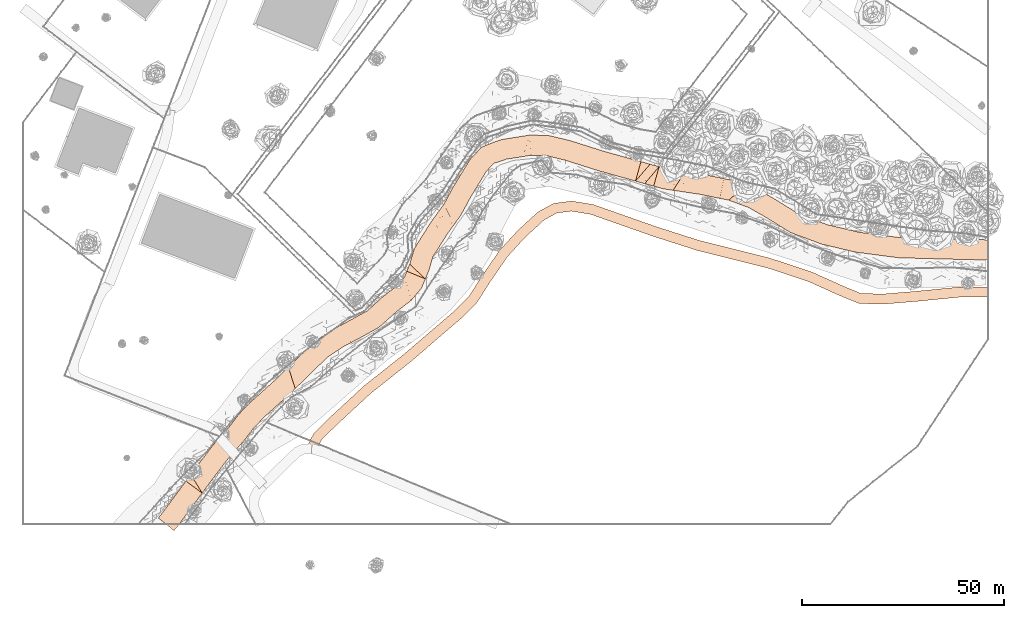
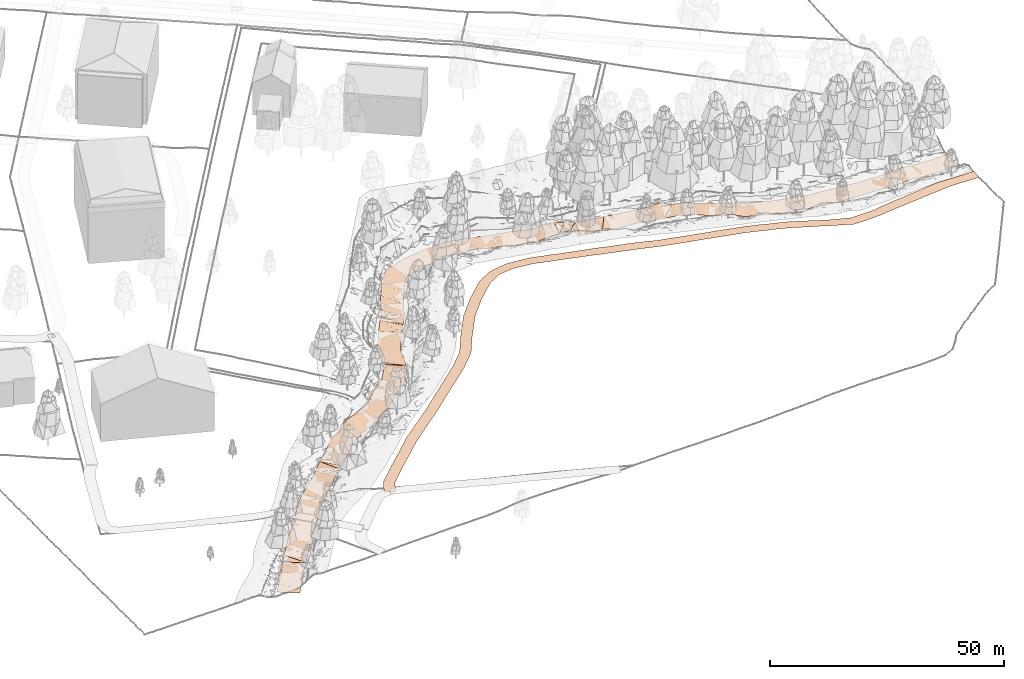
# Not in any storey, part 47 of 88: 2 geographic elements.
"""IFC4 model written with IfcOpenShell, lengths in metres."""

from ifc_helpers import new_model, si_unit, origin_with_axes, place, context, subcontext, project, spatial, triangles, element, save


model = new_model("IFC4")

# Units and contexts
model_context = context("Model", 3, precision=1e-05, world=origin_with_axes())
body_context = subcontext(model_context, "Body", "Model", "MODEL_VIEW")
ifc_project = project(units=[si_unit("LENGTHUNIT", "METRE"), si_unit("AREAUNIT", "SQUARE_METRE"), si_unit("VOLUMEUNIT", "CUBIC_METRE"), si_unit("PLANEANGLEUNIT", "RADIAN")], contexts=[model_context])

# Sites
site_1_placement = place(None, origin_with_axes())
site_1 = spatial("IfcSite", under=ifc_project, at=site_1_placement, Name="CH907857693633", CompositionType="ELEMENT")
site_2_placement = place(None, origin_with_axes())
site_2 = spatial("IfcSite", under=site_1, at=site_2_placement, Name="Roads", CompositionType="ELEMENT")

# Geographic element
geographic_element_1_placement = place(None, origin_with_axes())
element("IfcGeographicElement", 1, at=geographic_element_1_placement, inside=site_2, Name="Road_weg", ObjectType="ROAD", PredefinedType="USERDEFINED", context=body_context, shape_type="Tessellation", body=[
    triangles([(238.514226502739, 56.2198538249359, 3.6368530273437), (236.090226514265, 56.1922640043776, 3.66621093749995), (233.666226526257, 56.1646741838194, 3.7962768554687), (231.2932040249, 56.1387051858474, 3.80744628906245), (229.191040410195, 55.9311752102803, 3.8319213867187), (227.032040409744, 55.7193752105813, 3.8912475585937), (224.873040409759, 55.5075752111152, 3.8881958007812), (222.714040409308, 55.2957752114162, 3.8737915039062), (220.544362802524, 55.0829739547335, 3.86494140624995), (217.960058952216, 54.8705374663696, 3.8354614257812), (215.384725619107, 54.6588707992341, 3.7639282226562), (212.743138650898, 54.4435259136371, 3.67512207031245), (209.773741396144, 54.4962106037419, 3.5575073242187), (206.643149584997, 54.5728208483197, 3.49982910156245), (203.97473814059, 55.6492021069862, 3.5666625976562), (201.524693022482, 56.6614616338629, 3.61225585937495), (199.625825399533, 57.5171752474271, 3.63801269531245), (197.747325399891, 58.3639252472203, 3.6272094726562), (195.868825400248, 59.2106752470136, 3.64069824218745), (194.052241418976, 60.0314931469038, 3.64765624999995), (192.059263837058, 60.6871063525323, 3.74042968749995), (190.006063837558, 61.3643063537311, 3.73286132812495), (187.952863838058, 62.041506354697, 3.75422363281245), (185.899663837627, 62.7187063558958, 3.76630859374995), (183.891135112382, 63.3820934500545, 3.7486694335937), (181.76515618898, 63.9128376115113, 3.73188476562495), (179.595531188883, 64.4553376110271, 3.77045898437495), (177.425906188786, 64.9978376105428, 3.7706420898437), (175.256281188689, 65.5403376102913, 3.78510742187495), (173.086656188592, 66.0828376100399, 3.78034667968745), (170.917031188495, 66.6253376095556, 3.7794311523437), (168.747406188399, 67.1678376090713, 3.80366210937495), (166.538878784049, 67.7207334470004, 3.8298461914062), (164.383487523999, 68.4096549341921, 3.8214233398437), (162.266887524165, 69.0868549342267, 3.8370483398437), (160.150287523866, 69.7640549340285, 3.79523925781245), (158.033687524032, 70.4412549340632, 3.76142578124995), (155.900883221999, 71.1237615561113, 3.7170532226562), (153.925613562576, 71.8176884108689, 3.62714843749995), (151.967613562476, 72.5056884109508, 3.60688476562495), (150.009613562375, 73.1936884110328, 3.5046508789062), (148.051613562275, 73.8816884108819, 3.42304687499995), (146.093613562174, 74.569688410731, 3.34040527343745), (144.135613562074, 75.257688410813, 3.2445190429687), (142.177613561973, 75.9456884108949, 3.14667968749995), (140.334259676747, 76.5994731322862, 3.09980468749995), (137.888658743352, 77.0029847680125, 3.0384643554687), (135.510487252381, 77.4097609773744, 2.9565551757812), (133.706544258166, 77.1551823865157, 2.97456054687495), (131.991421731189, 76.9670977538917, 2.9459350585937), (128.728311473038, 75.181582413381, 2.97016601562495), (127.294559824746, 73.8547025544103, 2.99836425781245), (125.707226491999, 72.4083692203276, 2.9461791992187), (124.161883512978, 71.0021199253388, 2.9441040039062), (122.683227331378, 69.3842043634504, 2.95673828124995), (121.166227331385, 67.7262043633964, 2.9458129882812), (119.709259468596, 66.1389145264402, 2.9166381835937), (118.274901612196, 64.0511386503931, 2.9035766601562), (116.793234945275, 61.8991386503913, 2.91437988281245), (115.326369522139, 59.7691319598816, 2.9100463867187), (113.804902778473, 57.3553704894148, 2.8739135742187), (112.193834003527, 54.8131068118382, 2.88032226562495), (110.245002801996, 52.8517392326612, 2.88593749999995), (108.362578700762, 50.9698202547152, 2.8901489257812), (106.735604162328, 49.5719600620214, 2.8797729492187), (105.148104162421, 48.2094600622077, 2.8953979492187), (103.560604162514, 46.8469600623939, 2.9303100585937), (101.973104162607, 45.484460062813, 2.97163085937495), (100.3856041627, 44.1219600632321, 3.00715332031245), (98.7981041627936, 42.7594600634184, 3.00373535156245), (97.2106041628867, 41.3969600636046, 2.96564941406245), (95.6042180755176, 40.0185718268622, 2.97797851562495), (93.9794278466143, 38.7327211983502, 2.9432495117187), (92.3742611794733, 37.4627211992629, 2.93916015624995), (90.7690945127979, 36.1927212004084, 2.9176147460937), (89.1639278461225, 34.9227212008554, 2.8675659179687), (87.5587611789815, 33.6527212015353, 2.8805053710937), (85.9924942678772, 32.4147950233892, 2.8451049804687), (84.3541334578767, 30.8997454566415, 2.84589843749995), (82.6819334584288, 29.354545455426, 2.8148315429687), (81.0097334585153, 27.8093454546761, 2.82563476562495), (79.3375334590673, 26.2641454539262, 2.85749511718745), (77.678134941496, 24.7309423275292, 2.83124999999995), (75.7306746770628, 22.8360774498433, 2.7946899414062), (73.918564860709, 21.1010131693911, 2.8305786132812), (72.3948103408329, 18.1469074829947, 2.78608398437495), (238.485773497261, 58.719691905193, 3.6853149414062), (236.061773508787, 58.6921020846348, 3.7027709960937), (233.637773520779, 58.6645122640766, 3.7428100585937), (231.162796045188, 58.6353016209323, 3.86579589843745), (228.946959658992, 58.419231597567, 4.0603149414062), (226.787959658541, 58.207431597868, 4.06660156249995), (224.628959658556, 57.9956315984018, 3.9878051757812), (222.469959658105, 57.7838315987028, 3.97041015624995), (220.321637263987, 57.5730328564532, 3.90095214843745), (217.755274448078, 57.3621360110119, 3.89204101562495), (215.17994111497, 57.1504693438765, 3.7762573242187), (212.670861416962, 56.9424808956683, 3.57722167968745), (209.819258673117, 56.9957962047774, 3.53132324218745), (207.128850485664, 57.025185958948, 3.51166992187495), (204.929261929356, 57.9598046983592, 3.45734863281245), (202.511307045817, 58.9585451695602, 3.40974121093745), (200.653174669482, 59.7963315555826, 3.44892578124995), (198.774674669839, 60.6430815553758, 3.4876831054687), (196.896174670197, 61.4898315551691, 3.52790527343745), (194.955758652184, 62.3625136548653, 3.54316406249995), (192.842336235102, 63.0613004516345, 3.5833862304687), (190.789136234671, 63.7385004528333, 3.59907226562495), (188.735936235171, 64.4157004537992, 3.66633300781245), (186.682736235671, 65.092900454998, 3.6630981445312), (184.584864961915, 65.7839133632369, 3.60456542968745), (182.371593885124, 66.3381692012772, 3.62287597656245), (180.201968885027, 66.8806692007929, 3.67109374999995), (178.03234388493, 67.4231692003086, 3.62385253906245), (175.862718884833, 67.9656692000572, 3.65693359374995), (173.693093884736, 68.5081691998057, 3.64838867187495), (171.523468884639, 69.0506691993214, 3.67023925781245), (169.353843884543, 69.5931691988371, 3.70624999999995), (167.223121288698, 70.1252733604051, 3.69111328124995), (165.145312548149, 70.7907518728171, 3.76057128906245), (163.028712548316, 71.4679518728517, 3.7972534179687), (160.912112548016, 72.1451518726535, 3.79487304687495), (158.795512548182, 72.8223518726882, 3.72163085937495), (156.695116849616, 73.4942452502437, 3.6560180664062), (154.754386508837, 74.1763183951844, 3.62629394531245), (152.796386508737, 74.8643183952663, 3.53535156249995), (150.838386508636, 75.5523183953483, 3.4307983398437), (148.880386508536, 76.2403183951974, 3.31330566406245), (146.922386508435, 76.9283183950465, 3.20820312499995), (144.964386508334, 77.6163183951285, 3.1651733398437), (143.006386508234, 78.3043183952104, 3.04963378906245), (140.933740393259, 79.0265336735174, 2.9517944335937), (138.299341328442, 79.4690220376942, 2.9072387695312), (135.597512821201, 79.9082458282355, 2.7815063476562), (133.380455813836, 79.6338244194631, 2.75776367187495), (131.074578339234, 79.2929090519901, 2.70356445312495), (127.351688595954, 77.2684243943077, 2.80073242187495), (125.610773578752, 75.7026375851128, 2.8294799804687), (124.023440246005, 74.2563042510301, 2.81623535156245), (122.394116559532, 72.7698868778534, 2.7585571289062), (120.838772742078, 71.0718024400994, 2.77900390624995), (119.321772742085, 69.4138024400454, 2.81403808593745), (117.74474060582, 67.6850922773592, 2.7683227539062), (116.215765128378, 65.4688681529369, 2.82148437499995), (114.734098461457, 63.3168681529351, 2.7804077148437), (113.23763055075, 61.1428748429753, 2.7802856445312), (111.690097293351, 58.6886363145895, 2.77680664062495), (110.2321660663, 56.3628999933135, 2.81135253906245), (108.476997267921, 54.619267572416, 2.7732055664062), (106.655421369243, 52.7961865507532, 2.77583007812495), (105.107395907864, 51.4690467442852, 2.7592895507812), (103.519895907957, 50.1065467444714, 2.7607543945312), (101.93239590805, 48.7440467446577, 2.8180053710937), (100.344895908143, 47.3815467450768, 2.85151367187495), (98.7573959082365, 46.0190467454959, 2.84321289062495), (97.1698959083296, 44.6565467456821, 2.8888061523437), (95.5823959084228, 43.2940467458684, 2.90192871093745), (94.0137819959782, 41.9474349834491, 2.86921386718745), (92.4282388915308, 40.6932856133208, 2.8304565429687), (90.8230722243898, 39.4232856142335, 2.8542602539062), (89.2179055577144, 38.1532856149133, 2.86555175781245), (87.612738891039, 36.883285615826, 2.8712280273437), (86.007572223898, 35.6132856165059, 2.83771972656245), (84.3635058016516, 34.3112117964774, 2.88825683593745), (82.6574666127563, 32.7358613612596, 2.7606323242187), (80.9852666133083, 31.1906613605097, 2.7353637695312), (79.3130666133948, 29.6454613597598, 2.73200683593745), (77.6408666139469, 28.1002613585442, 2.74104003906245), (75.9558651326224, 26.5430644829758, 2.75629882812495), (73.9873253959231, 24.6279293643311, 2.79255371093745), (71.8834352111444, 22.5529936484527, 2.8299682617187), (70.1771897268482, 19.3010993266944, 2.78315429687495)], [[1, 87, 2], [87, 88, 2], [2, 88, 3], [88, 89, 3], [3, 89, 4], [89, 90, 4], [4, 90, 5], [90, 91, 5], [5, 91, 6], [91, 92, 6], [6, 92, 7], [92, 93, 7], [7, 93, 8], [93, 94, 8], [8, 94, 9], [94, 95, 9], [9, 95, 10], [95, 96, 10], [10, 96, 11], [96, 97, 11], [11, 97, 12], [97, 98, 12], [12, 98, 13], [98, 99, 13], [13, 99, 14], [99, 100, 14], [14, 100, 15], [100, 101, 15], [15, 101, 16], [101, 102, 16], [16, 102, 17], [102, 103, 17], [17, 103, 18], [103, 104, 18], [18, 104, 19], [104, 105, 19], [19, 105, 20], [105, 106, 20], [20, 106, 21], [106, 107, 21], [21, 107, 22], [107, 108, 22], [22, 108, 23], [108, 109, 23], [23, 109, 24], [109, 110, 24], [24, 110, 25], [110, 111, 25], [25, 111, 26], [111, 112, 26], [26, 112, 27], [112, 113, 27], [27, 113, 28], [113, 114, 28], [28, 114, 29], [114, 115, 29], [29, 115, 30], [115, 116, 30], [30, 116, 31], [116, 117, 31], [31, 117, 32], [117, 118, 32], [32, 118, 33], [118, 119, 33], [33, 119, 34], [119, 120, 34], [34, 120, 35], [120, 121, 35], [35, 121, 36], [121, 122, 36], [36, 122, 37], [122, 123, 37], [37, 123, 38], [123, 124, 38], [38, 124, 39], [124, 125, 39], [39, 125, 40], [125, 126, 40], [40, 126, 41], [126, 127, 41], [41, 127, 42], [127, 128, 42], [42, 128, 43], [128, 129, 43], [43, 129, 44], [129, 130, 44], [44, 130, 45], [130, 131, 45], [45, 131, 46], [131, 132, 46], [46, 132, 47], [132, 133, 47], [47, 133, 48], [133, 134, 48], [48, 134, 49], [134, 135, 49], [49, 135, 50], [135, 136, 50], [50, 136, 51], [136, 137, 51], [51, 137, 52], [137, 138, 52], [52, 138, 53], [138, 139, 53], [53, 139, 54], [139, 140, 54], [54, 140, 55], [140, 141, 55], [55, 141, 56], [141, 142, 56], [56, 142, 57], [142, 143, 57], [57, 143, 58], [143, 144, 58], [58, 144, 59], [144, 145, 59], [59, 145, 60], [145, 146, 60], [60, 146, 61], [146, 147, 61], [61, 147, 62], [147, 148, 62], [62, 148, 63], [148, 149, 63], [63, 149, 64], [149, 150, 64], [64, 150, 65], [150, 151, 65], [65, 151, 66], [151, 152, 66], [66, 152, 67], [152, 153, 67], [67, 153, 68], [153, 154, 68], [68, 154, 69], [154, 155, 69], [69, 155, 70], [155, 156, 70], [70, 156, 71], [156, 157, 71], [71, 157, 72], [157, 158, 72], [72, 158, 73], [158, 159, 73], [73, 159, 74], [159, 160, 74], [74, 160, 75], [160, 161, 75], [75, 161, 76], [161, 162, 76], [76, 162, 77], [162, 163, 77], [77, 163, 78], [163, 164, 78], [78, 164, 79], [164, 165, 79], [79, 165, 80], [165, 166, 80], [80, 166, 81], [166, 167, 81], [81, 167, 82], [167, 168, 82], [82, 168, 83], [168, 169, 83], [83, 169, 84], [169, 170, 84], [84, 170, 85], [170, 171, 85], [85, 171, 86], [171, 172, 86]]),
])

# Site
site_3_placement = place(None, origin_with_axes())
site_3 = spatial("IfcSite", under=site_1, at=site_3_placement, Name="Water", CompositionType="ELEMENT")

# Geographic element
geographic_element_2_placement = place(None, origin_with_axes())
element("IfcGeographicElement", 2, at=geographic_element_2_placement, inside=site_3, Name="Le Talent", ObjectType="WATER", PredefinedType="USERDEFINED", context=body_context, shape_type="Tessellation", body=[
    triangles([(238.442537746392, 65.3146804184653, 1.349365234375), (236.021537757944, 65.3703415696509, 1.00128173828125), (233.600537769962, 65.4260027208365, 0.96337890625), (231.175651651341, 65.481756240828, 1.009033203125), (229.07815707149, 65.5370134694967, 1.1790771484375), (226.985157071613, 65.5921563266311, 1.37969970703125), (224.89215707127, 65.6472991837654, 1.1192626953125), (222.799157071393, 65.7024420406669, 1.00213623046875), (220.70615707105, 65.7575848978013, 1.140869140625), (218.613157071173, 65.8127277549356, 1.268798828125), (216.389846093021, 65.8747105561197, 1.19427490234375), (214.179012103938, 66.1616955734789, 1.091064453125), (212.097612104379, 66.4350955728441, 0.8675537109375), (210.01621210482, 66.7084955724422, 0.87347412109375), (207.934812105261, 66.9818955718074, 0.789794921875), (205.72821795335, 67.2749801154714, 0.768310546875), (203.57104993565, 67.7818832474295, 0.76861572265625), (201.538549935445, 68.2626332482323, 0.77032470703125), (199.506049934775, 68.7433832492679, 0.8363037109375), (197.3073944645, 69.2695316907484, 0.651611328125), (194.729067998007, 70.224985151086, 0.781005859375), (192.281067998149, 71.1359851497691, 0.70440673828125), (189.613070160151, 72.1410727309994, 0.80572509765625), (187.320017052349, 73.5466863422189, 1.2843017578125), (185.252017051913, 74.8283530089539, 0.89483642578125), (183.226838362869, 76.0840705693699, 0.8770751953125), (181.229805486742, 77.2110604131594, 1.142578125), (179.381469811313, 78.2655524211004, 1.0574951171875), (176.89756607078, 79.179371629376, 1.12841796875), (174.415409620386, 80.1061756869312, 0.80560302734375), (172.190172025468, 80.5556314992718, 0.71771240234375), (169.768172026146, 81.0539648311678, 1.05450439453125), (167.40999185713, 81.5400294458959, 0.7730712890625), (165.20083048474, 81.870710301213, 0.63323974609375), (162.922830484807, 82.2127103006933, 0.71875), (160.644830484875, 82.5547103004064, 1.479248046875), (158.215495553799, 82.9242152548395, 0.790283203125), (155.847619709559, 83.5799799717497, 0.69281005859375), (153.629602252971, 84.1988453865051, 2.406494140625), (151.360073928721, 84.8311139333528, 2.11358642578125), (149.090073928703, 85.4635139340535, 1.44970703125), (146.82007392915, 86.095913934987, 0.93359375), (144.550073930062, 86.7283139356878, 0.69024658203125), (142.241137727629, 87.3719019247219, 0.6893310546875), (140.098692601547, 88.0465669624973, 0.79803466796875), (137.997692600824, 88.7085669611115, 0.79180908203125), (135.896692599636, 89.3705669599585, 0.6583251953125), (133.88325793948, 90.0067240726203, 0.96917724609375), (131.485242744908, 90.584956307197, 0.4906005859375), (129.252632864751, 91.1369740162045, 0.54620361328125), (127.426326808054, 91.1565170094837, 0.89691162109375), (125.529260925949, 91.2050144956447, 1.0479736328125), (123.570550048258, 90.8879440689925, 0.54351806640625), (121.397216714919, 90.5466107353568, 0.533447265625), (119.445906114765, 90.2505416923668, 0.462890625), (117.688551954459, 89.6146212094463, 0.50543212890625), (116.362357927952, 89.2617842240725, 0.49346923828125), (114.440491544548, 87.1641647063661, 0.4091796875), (113.231673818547, 85.1421903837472, 0.4619140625), (111.856007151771, 82.8788570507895, 0.2763671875), (110.512134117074, 80.6693369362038, 0.45318603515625), (109.446176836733, 78.6815420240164, 0.45904541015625), (108.25376638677, 76.474352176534, 0.54486083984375), (106.518952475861, 74.0654369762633, 0.5032958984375), (104.910031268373, 71.8402803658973, 0.3907470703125), (103.67251177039, 69.8756050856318, 0.49029541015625), (102.388511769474, 67.8399384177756, 0.6553955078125), (101.299813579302, 66.1815718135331, 0.59906005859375), (100.299064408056, 62.7155049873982, 0.57440185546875), (99.4515050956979, 60.6515344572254, 0.4248046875), (98.4410398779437, 58.3291653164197, 0.43609619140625), (95.9595710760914, 55.3750432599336, 0.31195068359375), (94.0293491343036, 53.8895264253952, 0.18133544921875), (92.4574139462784, 52.70791481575, 0.24383544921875), (90.364508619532, 50.8239555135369, 0.2156982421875), (87.9924992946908, 48.7109785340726, 0.50799560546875), (85.4232153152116, 47.2708995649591, 0.29730224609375), (83.0856324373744, 45.9791912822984, 0.12152099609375), (81.0007808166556, 44.8782443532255, 0.10931396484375), (79.0497646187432, 43.8518038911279, 0.093505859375), (77.0892986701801, 42.5494220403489, 0.19415283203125), (75.2063073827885, 41.3136880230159, 0.1802978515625), (73.8799074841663, 39.9901620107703, 0.15069580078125), (72.360574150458, 38.4954953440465, 0.14959716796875), (70.8329305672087, 36.9926912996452, 0.13201904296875), (69.0444189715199, 35.2633896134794, 0.2926025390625), (67.2630856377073, 33.5410562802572, 1.24578857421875), (65.4501246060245, 31.7886723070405, 1.01568603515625), (63.5710958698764, 30.0939516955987, 0.5635986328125), (61.7240958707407, 28.4286183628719, 0.68194580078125), (59.927246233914, 26.8097616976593, 0.3983154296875), (58.491227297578, 25.3498000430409, 0.33221435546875), (57.1402294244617, 23.9907593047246, 0.3009033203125), (54.8518382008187, 20.9543507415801, 0.33416748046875), (53.4072518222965, 19.3188351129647, 0.31280517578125), (52.0452518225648, 17.781501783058, 0.1832275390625), (50.7462945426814, 16.3181774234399, 0.1832275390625), (49.4116621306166, 14.5645665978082, 0.17279052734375), (48.0229954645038, 12.7425665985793, 0.23834228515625), (46.6447349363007, 10.934318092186, 0.12225341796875), (45.4662362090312, 9.33956464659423, 0.10888671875), (44.275950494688, 7.72899321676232, 0.427978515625), (43.0856647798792, 6.11842178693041, 0.77545166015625), (41.895379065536, 4.50785035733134, 0.76251220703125), (40.7050933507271, 2.89727892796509, 0.38714599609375), (39.5148076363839, 1.28670749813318, 0.5), (38.2979704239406, -0.359134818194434, 0.4744873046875), (37.3258659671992, -1.56774285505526, 0.5010986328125), (238.557462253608, 70.3133594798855, 1.0311279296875), (236.13646226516, 70.3690206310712, 0.98883056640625), (233.715462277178, 70.4246817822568, 0.94488525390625), (231.298348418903, 70.4802505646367, 1.0084228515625), (229.209842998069, 70.5352790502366, 1.09661865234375), (227.116842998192, 70.5904219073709, 1.23553466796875), (225.023842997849, 70.6455647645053, 0.9891357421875), (222.930842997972, 70.7007076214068, 0.9530029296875), (220.837842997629, 70.7558504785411, 0.8975830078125), (218.744842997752, 70.8109933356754, 0.96307373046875), (216.782153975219, 70.8592962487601, 0.92034912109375), (214.830187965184, 71.1191112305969, 0.94268798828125), (212.748787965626, 71.3925112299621, 0.85369873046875), (210.667387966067, 71.6659112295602, 0.8887939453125), (208.585987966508, 71.9393112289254, 0.85345458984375), (206.6297821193, 72.1930266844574, 0.77789306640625), (204.721950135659, 72.6476235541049, 0.681640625), (202.689450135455, 73.1283735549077, 0.7156982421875), (200.656950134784, 73.6091235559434, 0.73095703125), (198.790605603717, 74.0444751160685, 0.73846435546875), (196.472932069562, 74.9110216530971, 0.6845703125), (194.024932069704, 75.8220216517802, 0.73480224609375), (191.796929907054, 76.6389340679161, 0.73980712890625), (189.953983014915, 77.7966537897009, 0.83038330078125), (187.885983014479, 79.0783204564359, 0.76837158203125), (185.775161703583, 80.3859362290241, 0.76824951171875), (183.688194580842, 81.5649463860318, 0.7119140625), (181.452530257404, 82.816454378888, 0.89739990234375), (178.63543399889, 83.8676351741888, 0.79443359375), (175.816590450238, 84.9058311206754, 1.39947509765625), (173.197828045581, 85.4530419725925, 0.864501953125), (170.775828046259, 85.9513753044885, 0.81243896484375), (168.290008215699, 86.461977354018, 0.728271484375), (165.943169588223, 86.8152964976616, 0.730712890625), (163.66516958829, 87.1572964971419, 0.8580322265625), (161.387169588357, 87.4992964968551, 0.8194580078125), (159.260504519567, 87.8137915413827, 0.8323974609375), (157.191380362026, 88.3960268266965, 0.79193115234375), (154.972397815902, 89.015161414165, 1.1319580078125), (152.701926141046, 89.6476928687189, 1.7308349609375), (150.431926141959, 90.2800928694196, 1.3896484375), (148.161926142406, 90.9124928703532, 0.65411376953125), (145.891926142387, 91.5448928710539, 0.72418212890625), (143.660862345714, 92.1661048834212, 0.8929443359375), (141.601307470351, 92.8154398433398, 0.74505615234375), (139.500307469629, 93.477439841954, 0.6298828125), (137.399307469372, 94.1394398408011, 0.59246826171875), (135.210742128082, 94.8272827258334, 0.603515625), (132.659757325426, 95.4450504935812, 0.57159423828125), (129.943367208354, 96.0890327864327, 0.65020751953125), (127.527673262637, 96.1554897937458, 0.5263671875), (125.182739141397, 96.1929923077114, 0.4986572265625), (122.79478335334, 95.8273960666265, 0.50341796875), (120.62145002, 95.4860627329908, 0.55999755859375), (118.226093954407, 95.0994651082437, 0.62103271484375), (116.015448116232, 94.3263855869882, 0.51251220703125), (113.373642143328, 93.270222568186, 0.98748779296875), (110.50150852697, 90.2438420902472, 0.8392333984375), (108.958992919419, 87.7391497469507, 1.1251220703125), (107.583326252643, 85.475816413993, 0.8974609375), (106.175865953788, 83.1586698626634, 0.5196533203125), (105.04082323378, 81.0464647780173, 0.71551513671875), (104.032233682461, 79.1536546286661, 0.4755859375), (102.466047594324, 76.993569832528, 1.25445556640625), (100.773968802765, 74.6497264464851, 0.43096923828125), (99.4434882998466, 72.5430683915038, 0.4769287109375), (98.1594882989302, 70.5074017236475, 0.3841552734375), (96.6801864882, 68.0944349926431, 0.54522705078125), (95.5569356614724, 64.3005018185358, 0.4373779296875), (94.8314949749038, 62.5634723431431, 1.2020263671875), (94.2689601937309, 61.0848414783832, 1.02008056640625), (92.4284289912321, 58.9149635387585, 0.23260498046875), (91.0186509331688, 57.8814803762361, 0.15594482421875), (89.2505861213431, 56.5440919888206, 0.13677978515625), (87.0214914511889, 54.5420512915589, 0.0474853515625), (85.0715007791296, 52.7690282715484, 0.1588134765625), (83.0047847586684, 51.6471072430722, 0.195068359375), (80.7063676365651, 50.3768155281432, 0.34649658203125), (78.666219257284, 49.299762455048, 0.82470703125), (76.4922354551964, 48.1482029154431, 0.41619873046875), (74.3277014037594, 46.7175847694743, 0.1788330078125), (72.0856926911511, 45.2203187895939, 0.58831787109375), (70.3734259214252, 43.5545114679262, 0.23944091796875), (68.8540925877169, 42.0598448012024, 0.24951171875), (67.3430695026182, 40.5733155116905, 0.05108642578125), (65.5689144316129, 38.8579505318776, 0.48046875), (63.7875810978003, 37.1356171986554, 0.276611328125), (62.0378754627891, 35.4433345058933, 0.26416015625), (60.2229042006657, 33.8073884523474, 0.32958984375), (58.3759042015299, 32.1420551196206, 0.348388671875), (56.4787538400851, 30.4302451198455, 0.206298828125), (54.9287727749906, 28.858206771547, 0.55999755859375), (53.2937706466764, 27.1852475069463, 0.39971923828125), (50.9441618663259, 24.0736560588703, 0.31121826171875), (49.6647482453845, 22.6345050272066, 0.3006591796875), (48.3027482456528, 21.0971716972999, 0.1832275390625), (46.8777055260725, 19.485829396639, 0.1832275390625), (45.435004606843, 17.5954402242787, 0.1795654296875), (44.0463379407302, 15.7734402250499, 0.12603759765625), (42.6472651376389, 13.9376887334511, 0.3472900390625), (41.4451924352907, 12.3112993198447, 0.55328369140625), (40.2549067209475, 10.7007278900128, 0.18560791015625), (39.0646210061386, 9.09015646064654, 0.34161376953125), (37.8743352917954, 7.47958503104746, 0.22222900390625), (36.6840495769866, 5.86901360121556, 0.13909912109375), (35.4937638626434, 4.25844217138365, 0.12646484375), (34.330029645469, 2.68314162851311, 0.27532958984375), (33.4311606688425, 1.56774285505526, 0.26055908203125)], [[1, 109, 2], [109, 110, 2], [2, 110, 3], [110, 111, 3], [3, 111, 4], [111, 112, 4], [4, 112, 5], [112, 113, 5], [5, 113, 6], [113, 114, 6], [6, 114, 7], [114, 115, 7], [7, 115, 8], [115, 116, 8], [8, 116, 9], [116, 117, 9], [9, 117, 10], [117, 118, 10], [10, 118, 11], [118, 119, 11], [11, 119, 12], [119, 120, 12], [12, 120, 13], [120, 121, 13], [13, 121, 14], [121, 122, 14], [14, 122, 15], [122, 123, 15], [15, 123, 16], [123, 124, 16], [16, 124, 17], [124, 125, 17], [17, 125, 18], [125, 126, 18], [18, 126, 19], [126, 127, 19], [19, 127, 20], [127, 128, 20], [20, 128, 21], [128, 129, 21], [21, 129, 22], [129, 130, 22], [22, 130, 23], [130, 131, 23], [23, 131, 24], [131, 132, 24], [24, 132, 25], [132, 133, 25], [25, 133, 26], [133, 134, 26], [26, 134, 27], [134, 135, 27], [27, 135, 28], [135, 136, 28], [28, 136, 29], [136, 137, 29], [29, 137, 30], [137, 138, 30], [30, 138, 31], [138, 139, 31], [31, 139, 32], [139, 140, 32], [32, 140, 33], [140, 141, 33], [33, 141, 34], [141, 142, 34], [34, 142, 35], [142, 143, 35], [35, 143, 36], [143, 144, 36], [36, 144, 37], [144, 145, 37], [37, 145, 38], [145, 146, 38], [38, 146, 39], [146, 147, 39], [39, 147, 40], [147, 148, 40], [40, 148, 41], [148, 149, 41], [41, 149, 42], [149, 150, 42], [42, 150, 43], [150, 151, 43], [43, 151, 44], [151, 152, 44], [44, 152, 45], [152, 153, 45], [45, 153, 46], [153, 154, 46], [46, 154, 47], [154, 155, 47], [47, 155, 48], [155, 156, 48], [48, 156, 49], [156, 157, 49], [49, 157, 50], [157, 158, 50], [50, 158, 51], [158, 159, 51], [51, 159, 52], [159, 160, 52], [52, 160, 53], [160, 161, 53], [53, 161, 54], [161, 162, 54], [54, 162, 55], [162, 163, 55], [55, 163, 56], [163, 164, 56], [56, 164, 57], [164, 165, 57], [57, 165, 58], [165, 166, 58], [58, 166, 59], [166, 167, 59], [59, 167, 60], [167, 168, 60], [60, 168, 61], [168, 169, 61], [61, 169, 62], [169, 170, 62], [62, 170, 63], [170, 171, 63], [63, 171, 64], [171, 172, 64], [64, 172, 65], [172, 173, 65], [65, 173, 66], [173, 174, 66], [66, 174, 67], [174, 175, 67], [67, 175, 68], [175, 176, 68], [68, 176, 69], [176, 177, 69], [69, 177, 70], [177, 178, 70], [70, 178, 71], [178, 179, 71], [71, 179, 72], [179, 180, 72], [72, 180, 73], [180, 181, 73], [73, 181, 74], [181, 182, 74], [74, 182, 75], [182, 183, 75], [75, 183, 76], [183, 184, 76], [76, 184, 77], [184, 185, 77], [77, 185, 78], [185, 186, 78], [78, 186, 79], [186, 187, 79], [79, 187, 80], [187, 188, 80], [80, 188, 81], [188, 189, 81], [81, 189, 82], [189, 190, 82], [82, 190, 83], [190, 191, 83], [83, 191, 84], [191, 192, 84], [84, 192, 85], [192, 193, 85], [85, 193, 86], [193, 194, 86], [86, 194, 87], [194, 195, 87], [87, 195, 88], [195, 196, 88], [88, 196, 89], [196, 197, 89], [89, 197, 90], [197, 198, 90], [90, 198, 91], [198, 199, 91], [91, 199, 92], [199, 200, 92], [92, 200, 93], [200, 201, 93], [93, 201, 94], [201, 202, 94], [94, 202, 95], [202, 203, 95], [95, 203, 96], [203, 204, 96], [96, 204, 97], [204, 205, 97], [97, 205, 98], [205, 206, 98], [98, 206, 99], [206, 207, 99], [99, 207, 100], [207, 208, 100], [100, 208, 101], [208, 209, 101], [101, 209, 102], [209, 210, 102], [102, 210, 103], [210, 211, 103], [103, 211, 104], [211, 212, 104], [104, 212, 105], [212, 213, 105], [105, 213, 106], [213, 214, 106], [106, 214, 107], [214, 215, 107], [107, 215, 108], [215, 216, 108]]),
])

save(model, "model.ifc")
